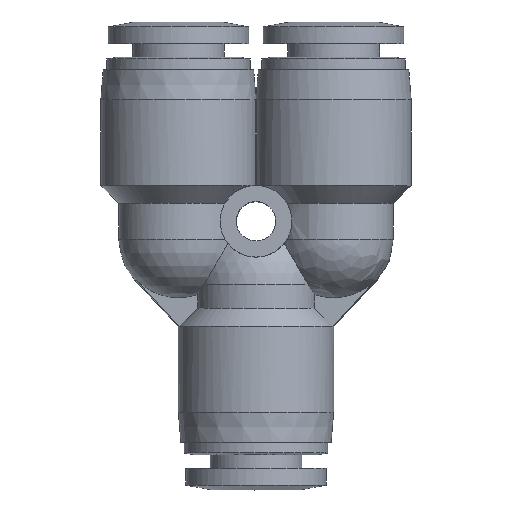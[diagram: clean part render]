
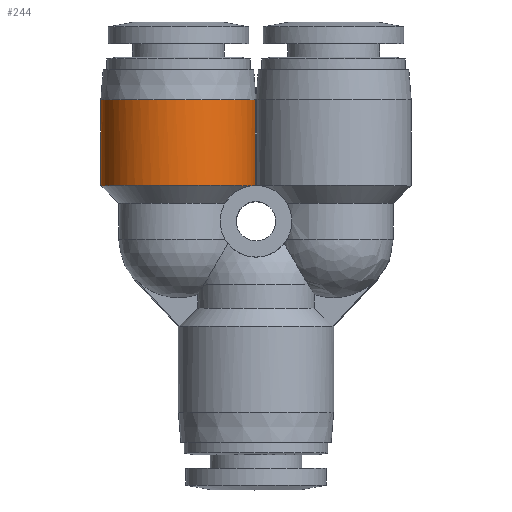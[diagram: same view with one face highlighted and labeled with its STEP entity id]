
A CAD part, top view. The second image highlights one B-rep face of the part: STEP entity #244.
In plain terms, the highlighted cylindrical face has radius 6.5 mm (diameter 13 mm), a partial arc.
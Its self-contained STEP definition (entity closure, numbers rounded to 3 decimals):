
#3 = CARTESIAN_POINT ( 'NONE',  ( -3.829, 19., 5.981 ) ) ;
#112 = CYLINDRICAL_SURFACE ( 'NONE', #4445, 6.5 ) ;
#120 = ORIENTED_EDGE ( 'NONE', *, *, #3050, .T. ) ;
#244 = ADVANCED_FACE ( 'NONE', ( #3227 ), #112, .T. ) ;
#447 = ORIENTED_EDGE ( 'NONE', *, *, #2445, .T. ) ;
#524 = CARTESIAN_POINT ( 'NONE',  ( -0.077, 26.2, 1. ) ) ;
#576 = CARTESIAN_POINT ( 'NONE',  ( -0.077, 21.4, 1. ) ) ;
#717 = DIRECTION ( 'NONE',  ( 0., 1., 0. ) ) ;
#727 = ORIENTED_EDGE ( 'NONE', *, *, #1627, .F. ) ;
#818 = CARTESIAN_POINT ( 'NONE',  ( -13., 26.2, 0.809 ) ) ;
#830 = CARTESIAN_POINT ( 'NONE',  ( -0.202, 19., 1.799 ) ) ;
#918 = CARTESIAN_POINT ( 'NONE',  ( -13., 19., 0.809 ) ) ;
#936 = CARTESIAN_POINT ( 'NONE',  ( -8.603, 26.2, 6.203 ) ) ;
#938 = VECTOR ( 'NONE', #717, 1000. ) ;
#1028 = DIRECTION ( 'NONE',  ( 0., 1., 0. ) ) ;
#1132 = CARTESIAN_POINT ( 'NONE',  ( -13., 22.6, 0. ) ) ;
#1262 = CARTESIAN_POINT ( 'NONE',  ( -1.832, 26.2, 4.595 ) ) ;
#1274 = CARTESIAN_POINT ( 'NONE',  ( -13., 19., 0. ) ) ;
#1287 = CARTESIAN_POINT ( 'NONE',  ( -0.078, 18.999, 1. ) ) ;
#1294 = CARTESIAN_POINT ( 'NONE',  ( -13., 26.2, 0. ) ) ;
#1314 = B_SPLINE_CURVE_WITH_KNOTS ( 'NONE', 3,
 ( #5419, #5513, #2194, #2771, #1262, #4939, #4026, #3552, #2294, #3100, #936, #3614, #4576, #5002, #4547, #4974, #818, #1294 ),
 .UNSPECIFIED., .F., .F.,
 ( 4, 2, 2, 2, 2, 2, 2, 2, 4 ),
 ( 0., 0.063, 0.125, 0.188, 0.25, 0.313, 0.375, 0.438, 0.5 ),
 .UNSPECIFIED. ) ;
#1339 = CARTESIAN_POINT ( 'NONE',  ( -11.82, 19., 3.822 ) ) ;
#1627 = EDGE_CURVE ( 'NONE', #4646, #3237, #3449, .T. ) ;
#1816 = CARTESIAN_POINT ( 'NONE',  ( -1.832, 19., 4.595 ) ) ;
#1835 = CARTESIAN_POINT ( 'NONE',  ( -0.077, 26.2, 1. ) ) ;
#1846 = CARTESIAN_POINT ( 'NONE',  ( -0.477, 19., 2.575 ) ) ;
#1889 = VERTEX_POINT ( 'NONE', #1835 ) ;
#1937 = EDGE_LOOP ( 'NONE', ( #727, #447, #4190, #120 ) ) ;
#1981 = CARTESIAN_POINT ( 'NONE',  ( -13., 19., 0. ) ) ;
#2194 = CARTESIAN_POINT ( 'NONE',  ( -0.477, 26.2, 2.575 ) ) ;
#2272 = CARTESIAN_POINT ( 'NONE',  ( -12.847, 19., 1.618 ) ) ;
#2294 = CARTESIAN_POINT ( 'NONE',  ( -6.195, 26.2, 6.543 ) ) ;
#2305 = CARTESIAN_POINT ( 'NONE',  ( -1.292, 19., 3.973 ) ) ;
#2406 = CARTESIAN_POINT ( 'NONE',  ( -0.077, 23.8, 1. ) ) ;
#2445 = EDGE_CURVE ( 'NONE', #4646, #5608, #4955, .T. ) ;
#2595 = CARTESIAN_POINT ( 'NONE',  ( -13., 26.2, 0. ) ) ;
#2752 = CARTESIAN_POINT ( 'NONE',  ( -7.808, 19., 6.418 ) ) ;
#2771 = CARTESIAN_POINT ( 'NONE',  ( -1.292, 26.2, 3.973 ) ) ;
#2863 = DIRECTION ( 'NONE',  ( -1., 0., 0. ) ) ;
#3050 = EDGE_CURVE ( 'NONE', #1889, #3237, #1314, .T. ) ;
#3100 = CARTESIAN_POINT ( 'NONE',  ( -7.808, 26.2, 6.418 ) ) ;
#3173 = CARTESIAN_POINT ( 'NONE',  ( -6.195, 19., 6.543 ) ) ;
#3227 = FACE_OUTER_BOUND ( 'NONE', #1937, .T. ) ;
#3237 = VERTEX_POINT ( 'NONE', #2595 ) ;
#3449 = LINE ( 'NONE', #1132, #938 ) ;
#3552 = CARTESIAN_POINT ( 'NONE',  ( -5.377, 26.2, 6.453 ) ) ;
#3614 = CARTESIAN_POINT ( 'NONE',  ( -10.059, 26.2, 5.499 ) ) ;
#3683 = CARTESIAN_POINT ( 'NONE',  ( -0.078, 18.999, 1. ) ) ;
#3824 = CARTESIAN_POINT ( 'NONE',  ( -6.5, 22.6, 0. ) ) ;
#3876 = EDGE_CURVE ( 'NONE', #5608, #1889, #4051, .T. ) ;
#4026 = CARTESIAN_POINT ( 'NONE',  ( -3.829, 26.2, 5.981 ) ) ;
#4051 = B_SPLINE_CURVE_WITH_KNOTS ( 'NONE', 3,
 ( #5574, #576, #2406, #524 ),
 .UNSPECIFIED., .F., .F.,
 ( 4, 4 ),
 ( 0., 1. ),
 .UNSPECIFIED. ) ;
#4100 = CARTESIAN_POINT ( 'NONE',  ( -5.377, 19., 6.453 ) ) ;
#4160 = CARTESIAN_POINT ( 'NONE',  ( -8.603, 19., 6.203 ) ) ;
#4190 = ORIENTED_EDGE ( 'NONE', *, *, #3876, .T. ) ;
#4445 = AXIS2_PLACEMENT_3D ( 'NONE', #3824, #1028, #2863 ) ;
#4547 = CARTESIAN_POINT ( 'NONE',  ( -12.257, 26.2, 3.124 ) ) ;
#4576 = CARTESIAN_POINT ( 'NONE',  ( -10.721, 26.2, 5.009 ) ) ;
#4589 = CARTESIAN_POINT ( 'NONE',  ( -3.1, 19., 5.599 ) ) ;
#4620 = CARTESIAN_POINT ( 'NONE',  ( -10.059, 19., 5.499 ) ) ;
#4646 = VERTEX_POINT ( 'NONE', #1981 ) ;
#4939 = CARTESIAN_POINT ( 'NONE',  ( -3.1, 26.2, 5.599 ) ) ;
#4955 = B_SPLINE_CURVE_WITH_KNOTS ( 'NONE', 3,
 ( #1274, #918, #2272, #5463, #1339, #5074, #4620, #4160, #2752, #3173, #4100, #3, #4589, #1816, #2305, #1846, #830, #3683 ),
 .UNSPECIFIED., .F., .F.,
 ( 4, 2, 2, 2, 2, 2, 2, 2, 4 ),
 ( 0.5, 0.563, 0.625, 0.688, 0.75, 0.813, 0.875, 0.938, 1. ),
 .UNSPECIFIED. ) ;
#4974 = CARTESIAN_POINT ( 'NONE',  ( -12.847, 26.2, 1.618 ) ) ;
#5002 = CARTESIAN_POINT ( 'NONE',  ( -11.82, 26.2, 3.822 ) ) ;
#5074 = CARTESIAN_POINT ( 'NONE',  ( -10.721, 19., 5.009 ) ) ;
#5419 = CARTESIAN_POINT ( 'NONE',  ( -0.077, 26.2, 1. ) ) ;
#5463 = CARTESIAN_POINT ( 'NONE',  ( -12.257, 19., 3.124 ) ) ;
#5513 = CARTESIAN_POINT ( 'NONE',  ( -0.202, 26.2, 1.799 ) ) ;
#5574 = CARTESIAN_POINT ( 'NONE',  ( -0.078, 18.999, 1. ) ) ;
#5608 = VERTEX_POINT ( 'NONE', #1287 ) ;
